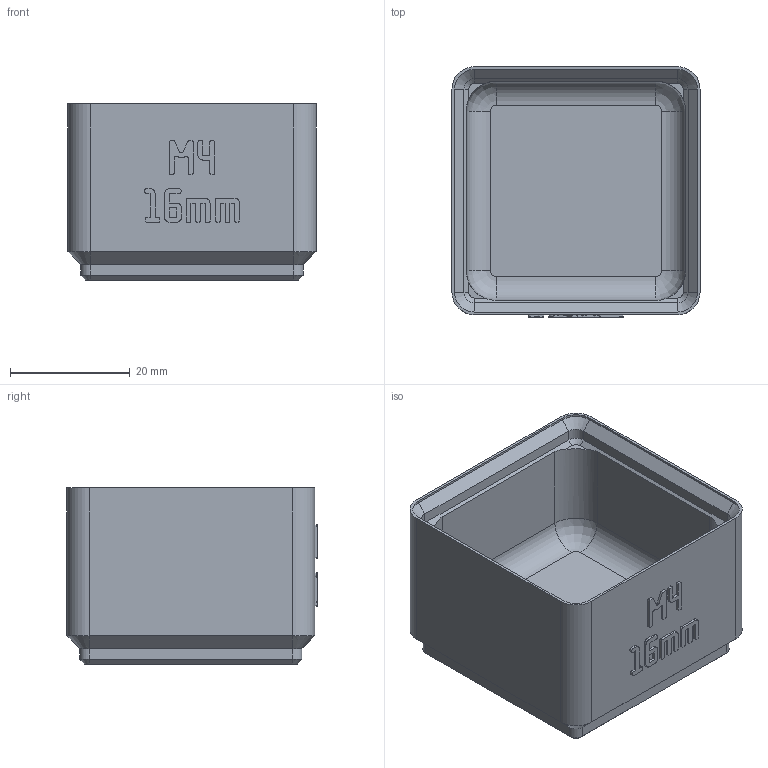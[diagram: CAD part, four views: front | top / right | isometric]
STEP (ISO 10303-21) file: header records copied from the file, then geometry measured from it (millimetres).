
FILE_DESCRIPTION(('Open CASCADE Model'),'2;1');
FILE_NAME('Open CASCADE Shape Model','2026-11-03T10:23:36',('Author'),( 'Open CASCADE'),'Open CASCADE STEP processor 8.0','build123d', 'Unknown');
FILE_SCHEMA(('AUTOMOTIVE_DESIGN { 1 0 10303 214 1 1 1 1 }'));
Length unit declared in the file: millimetre
Products named in the file (1): COMPOUND
Bounding box: 41.5 x 41.9 x 29.5 mm (x, y, z)
Volume: 18939 mm3; surface area: 10644.5 mm2
Topology: 1 solids, 1 shells, 648 faces, 1858 edges, 1220 vertices
Faces by surface type: plane 604, cylinder 24, cone 16, revolution 4
Entity records: 43690 total; most frequent: CARTESIAN_POINT 8907, DIRECTION 5612, LINE 4162, VECTOR 4162, ORIENTED_EDGE 3716, PCURVE 3716, DEFINITIONAL_REPRESENTATION 3716, EDGE_CURVE 1858
